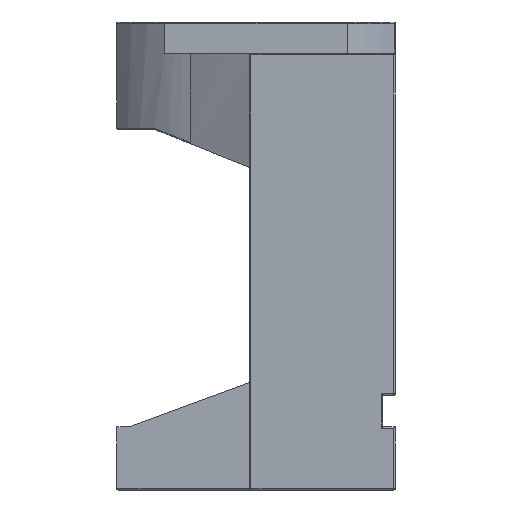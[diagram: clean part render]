
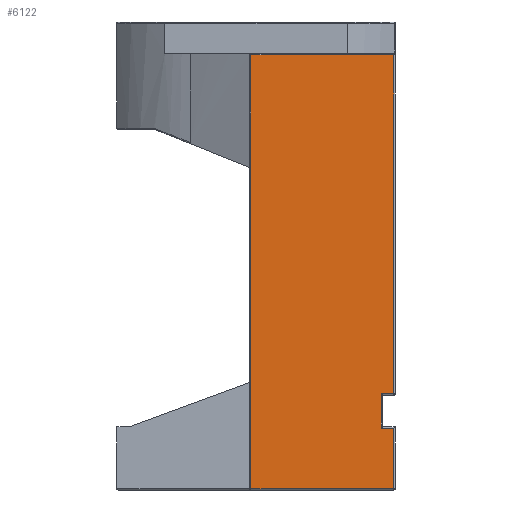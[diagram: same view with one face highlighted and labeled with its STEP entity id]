
A CAD part, left-side view. The second image highlights one B-rep face of the part: STEP entity #6122.
In plain terms, the highlighted planar face has unit normal (-1, 0, 0).
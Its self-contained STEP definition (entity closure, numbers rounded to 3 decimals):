
#45 = VERTEX_POINT ( 'NONE', #752 ) ;
#63 = DIRECTION ( 'NONE',  ( 0., 0., -1. ) ) ;
#95 = ORIENTED_EDGE ( 'NONE', *, *, #2073, .T. ) ;
#153 = CARTESIAN_POINT ( 'NONE',  ( -32.5, 0.8, -5. ) ) ;
#304 = VERTEX_POINT ( 'NONE', #5564 ) ;
#320 = LINE ( 'NONE', #1524, #3935 ) ;
#366 = VERTEX_POINT ( 'NONE', #5991 ) ;
#417 = ORIENTED_EDGE ( 'NONE', *, *, #1081, .T. ) ;
#462 = AXIS2_PLACEMENT_3D ( 'NONE', #486, #566, #528 ) ;
#486 = CARTESIAN_POINT ( 'NONE',  ( -32.5, -22., 64. ) ) ;
#528 = DIRECTION ( 'NONE',  ( 0., 1., 0. ) ) ;
#566 = DIRECTION ( 'NONE',  ( -1., 0., 0. ) ) ;
#610 = CARTESIAN_POINT ( 'NONE',  ( -32.5, -21.8, 10.2 ) ) ;
#649 = EDGE_CURVE ( 'NONE', #45, #366, #5728, .T. ) ;
#752 = CARTESIAN_POINT ( 'NONE',  ( -32.5, -21.8, 63.8 ) ) ;
#761 = CARTESIAN_POINT ( 'NONE',  ( -32.5, -21.8, 5. ) ) ;
#798 = DIRECTION ( 'NONE',  ( 0., 0., 1. ) ) ;
#960 = PLANE ( 'NONE',  #462 ) ;
#1038 = ORIENTED_EDGE ( 'NONE', *, *, #649, .T. ) ;
#1060 = CARTESIAN_POINT ( 'NONE',  ( -32.5, -19.8, 4.8 ) ) ;
#1065 = ORIENTED_EDGE ( 'NONE', *, *, #3709, .T. ) ;
#1081 = EDGE_CURVE ( 'NONE', #1505, #1197, #4302, .T. ) ;
#1117 = LINE ( 'NONE', #153, #2433 ) ;
#1197 = VERTEX_POINT ( 'NONE', #2108 ) ;
#1505 = VERTEX_POINT ( 'NONE', #1060 ) ;
#1524 = CARTESIAN_POINT ( 'NONE',  ( -32.5, -22., 10.2 ) ) ;
#1575 = DIRECTION ( 'NONE',  ( 0., -1., 0. ) ) ;
#1638 = VECTOR ( 'NONE', #3335, 1000. ) ;
#2031 = EDGE_CURVE ( 'NONE', #4750, #3215, #4583, .T. ) ;
#2073 = EDGE_CURVE ( 'NONE', #304, #1505, #5571, .T. ) ;
#2108 = CARTESIAN_POINT ( 'NONE',  ( -32.5, -19.8, 10.2 ) ) ;
#2433 = VECTOR ( 'NONE', #63, 1000. ) ;
#2505 = CARTESIAN_POINT ( 'NONE',  ( -32.5, -19.8, 10. ) ) ;
#2559 = DIRECTION ( 'NONE',  ( 0., 0., 1. ) ) ;
#2595 = ORIENTED_EDGE ( 'NONE', *, *, #4232, .T. ) ;
#2715 = CARTESIAN_POINT ( 'NONE',  ( -32.5, -21.8, -4.8 ) ) ;
#2876 = EDGE_CURVE ( 'NONE', #3412, #45, #4022, .T. ) ;
#2933 = ORIENTED_EDGE ( 'NONE', *, *, #2876, .T. ) ;
#3091 = ORIENTED_EDGE ( 'NONE', *, *, #5351, .T. ) ;
#3215 = VERTEX_POINT ( 'NONE', #2715 ) ;
#3224 = VECTOR ( 'NONE', #4285, 1000. ) ;
#3335 = DIRECTION ( 'NONE',  ( 0., 1., 0. ) ) ;
#3353 = CARTESIAN_POINT ( 'NONE',  ( -32.5, -22., 4.8 ) ) ;
#3412 = VERTEX_POINT ( 'NONE', #610 ) ;
#3513 = VECTOR ( 'NONE', #798, 1000. ) ;
#3522 = CARTESIAN_POINT ( 'NONE',  ( -32.5, 0.8, -4.8 ) ) ;
#3709 = EDGE_CURVE ( 'NONE', #3215, #304, #4766, .T. ) ;
#3935 = VECTOR ( 'NONE', #1575, 1000. ) ;
#3972 = CARTESIAN_POINT ( 'NONE',  ( -32.5, -22., 63.8 ) ) ;
#3984 = CARTESIAN_POINT ( 'NONE',  ( -32.5, -22., -4.8 ) ) ;
#4022 = LINE ( 'NONE', #4468, #5167 ) ;
#4025 = DIRECTION ( 'NONE',  ( 0., -1., 0. ) ) ;
#4232 = EDGE_CURVE ( 'NONE', #366, #4750, #1117, .T. ) ;
#4285 = DIRECTION ( 'NONE',  ( 0., 1., 0. ) ) ;
#4289 = VECTOR ( 'NONE', #4025, 1000. ) ;
#4302 = LINE ( 'NONE', #2505, #4450 ) ;
#4450 = VECTOR ( 'NONE', #2559, 1000. ) ;
#4460 = DIRECTION ( 'NONE',  ( 0., 0., 1. ) ) ;
#4468 = CARTESIAN_POINT ( 'NONE',  ( -32.5, -21.8, 64. ) ) ;
#4583 = LINE ( 'NONE', #3984, #4289 ) ;
#4661 = FACE_OUTER_BOUND ( 'NONE', #6128, .T. ) ;
#4750 = VERTEX_POINT ( 'NONE', #3522 ) ;
#4766 = LINE ( 'NONE', #761, #3513 ) ;
#5167 = VECTOR ( 'NONE', #4460, 1000. ) ;
#5351 = EDGE_CURVE ( 'NONE', #1197, #3412, #320, .T. ) ;
#5564 = CARTESIAN_POINT ( 'NONE',  ( -32.5, -21.8, 4.8 ) ) ;
#5571 = LINE ( 'NONE', #3353, #1638 ) ;
#5678 = ORIENTED_EDGE ( 'NONE', *, *, #2031, .T. ) ;
#5728 = LINE ( 'NONE', #3972, #3224 ) ;
#5991 = CARTESIAN_POINT ( 'NONE',  ( -32.5, 0.8, 63.8 ) ) ;
#6122 = ADVANCED_FACE ( 'NONE', ( #4661 ), #960, .T. ) ;
#6128 = EDGE_LOOP ( 'NONE', ( #2933, #1038, #2595, #5678, #1065, #95, #417, #3091 ) ) ;
